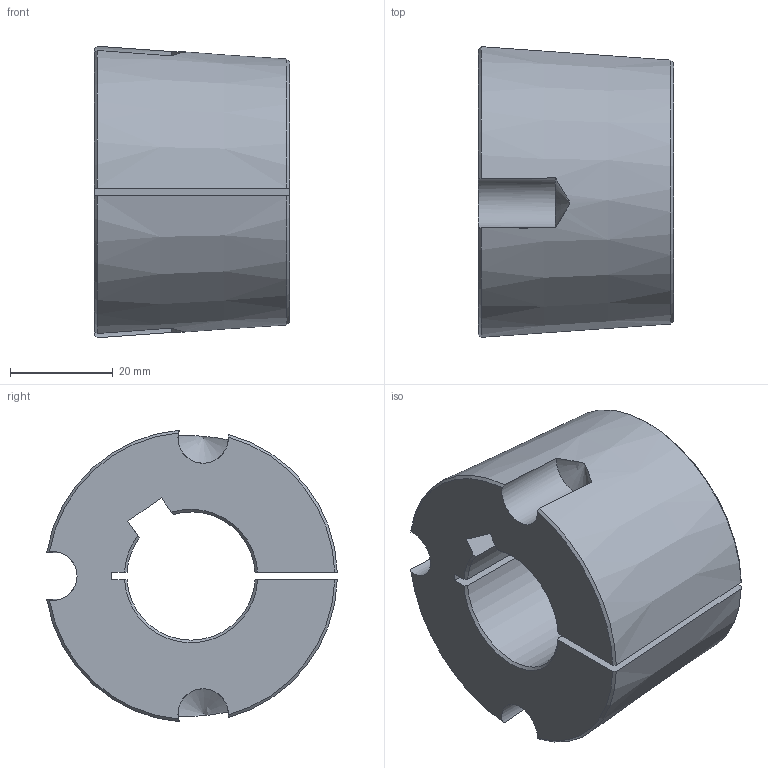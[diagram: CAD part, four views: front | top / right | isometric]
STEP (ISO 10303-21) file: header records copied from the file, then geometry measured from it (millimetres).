
FILE_DESCRIPTION(/* description */ (''),/* implementation_level */ '2;1');
FILE_NAME(/* name */ 'C:\Users\stagistaCAD\Desktop\Nuova cartella\29161525.stp',/* time_stamp */ '2018-06-27T16:31:01+02:00',/* author */ ('stagistacad'),/* organization */ (''),/* preprocessor_version */ 'ST-DEVELOPER v15.6',/* originating_system */ 'Autodesk Inventor 2015',/* authorisation */ '');
FILE_SCHEMA (('AUTOMOTIVE_DESIGN { 1 0 10303 214 3 1 1 }'));
Length unit declared in the file: millimetre
Products named in the file (1): 29161525
Bounding box: 38 x 56.61 x 56.81 mm (x, y, z)
Volume: 64790.8 mm3; surface area: 14753.3 mm2
Topology: 1 solids, 1 shells, 34 faces, 100 edges, 66 vertices
Faces by surface type: cone 16, plane 10, cylinder 8
Entity records: 1190 total; most frequent: CARTESIAN_POINT 321, ORIENTED_EDGE 192, DIRECTION 170, EDGE_CURVE 96, AXIS2_PLACEMENT_3D 69, VERTEX_POINT 64, FACE_OUTER_BOUND 34, EDGE_LOOP 34
